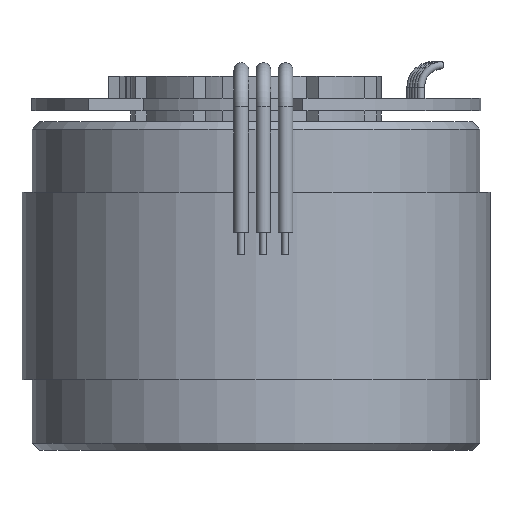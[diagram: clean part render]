
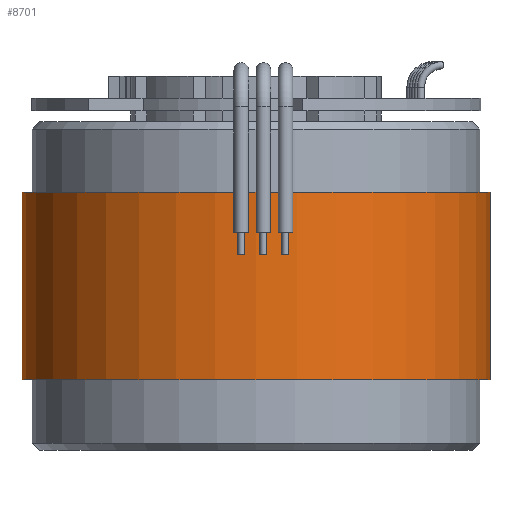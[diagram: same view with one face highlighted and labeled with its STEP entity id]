
A CAD part, front view. The second image highlights one B-rep face of the part: STEP entity #8701.
In plain terms, the highlighted cylindrical face has radius 31.75 mm (diameter 63.5 mm), a full revolution.
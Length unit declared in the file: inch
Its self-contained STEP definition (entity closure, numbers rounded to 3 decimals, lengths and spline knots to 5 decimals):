
#8655=CARTESIAN_POINT('',(0.0,1.25,1.0));
#8656=VERTEX_POINT('',#8655);
#8657=CARTESIAN_POINT('',(0.0,0.0,1.0));
#8658=DIRECTION('',(0.0,0.0,-1.0));
#8659=DIRECTION('',(0.0,-1.0,0.0));
#8660=AXIS2_PLACEMENT_3D('',#8657,#8658,#8659);
#8661=CIRCLE('',#8660,1.25);
#8662=EDGE_CURVE('',#8656,#8656,#8661,.T.);
#8675=CARTESIAN_POINT('',(0.0,1.25,0.0));
#8676=VERTEX_POINT('',#8675);
#8677=CARTESIAN_POINT('',(0.0,0.0,0.0));
#8678=DIRECTION('',(0.0,0.0,-1.0));
#8679=DIRECTION('',(0.0,-1.0,0.0));
#8680=AXIS2_PLACEMENT_3D('',#8677,#8678,#8679);
#8681=CIRCLE('',#8680,1.25);
#8682=EDGE_CURVE('',#8676,#8676,#8681,.T.);
#8690=CARTESIAN_POINT('',(0.0,0.0,0.0));
#8691=DIRECTION('',(0.0,0.0,-1.0));
#8692=DIRECTION('',(0.0,-1.0,0.0));
#8693=AXIS2_PLACEMENT_3D('',#8690,#8691,#8692);
#8694=CYLINDRICAL_SURFACE('',#8693,1.25);
#8695=ORIENTED_EDGE('',*,*,#8682,.F.);
#8696=EDGE_LOOP('',(#8695));
#8697=FACE_OUTER_BOUND('',#8696,.T.);
#8698=ORIENTED_EDGE('',*,*,#8662,.T.);
#8699=EDGE_LOOP('',(#8698));
#8700=FACE_BOUND('',#8699,.T.);
#8701=ADVANCED_FACE('',(#8697,#8700),#8694,.T.);
